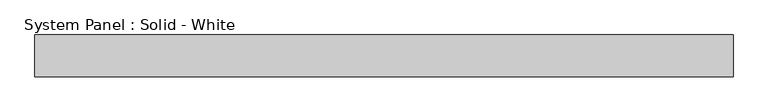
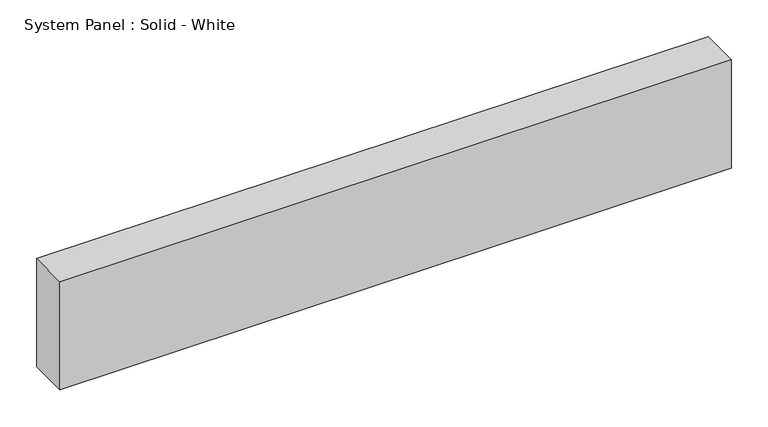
"""IFC4 building model written with IfcOpenShell, lengths in millimetres: plate geometry, System Panel : Solid - White."""

from ifc_helpers import new_model, si_unit, origin, origin_with_axes, place, context, project, spatial, polyline, outline, extrude, source, transform, mapped, element, save


def system_panel_solid_white_8a7a1054(model_context):
    return source(origin(), model_context, "Body", "SweptSolid", [
        extrude(outline(polyline([(528.8642858, -19.05), (-528.8642858, -19.05), (-528.8642858, 44.45), (528.8642858, 44.45), (528.8642858, -19.05)])), origin_with_axes(), (0.0, 0.0, 1.0), 180.5027241),
    ])


if __name__ == "__main__":
    model = new_model("IFC4")
    model_context = context("Model", 3, world=origin())
    ifc_project = project(units=[si_unit("LENGTHUNIT", "METRE", prefix="MILLI")], contexts=[model_context])
    site = spatial("IfcSite", under=ifc_project)
    building = spatial("IfcBuilding", under=site)
    placement = place(None, origin())
    system_panel_solid_white_shape = system_panel_solid_white_8a7a1054(model_context)
    element("IfcPlate", 1, ObjectType="System Panel : Solid - White", at=placement, inside=building, context=model_context, shape_type="MappedRepresentation", body=[
        mapped(system_panel_solid_white_shape, transform((0.0, 0.0, 0.0), x_axis=(1.0, 0.0, 0.0), y_axis=(0.0, 1.0, 0.0), z_axis=(0.0, 0.0, 1.0))),
    ])
    save(model, "model.ifc")
